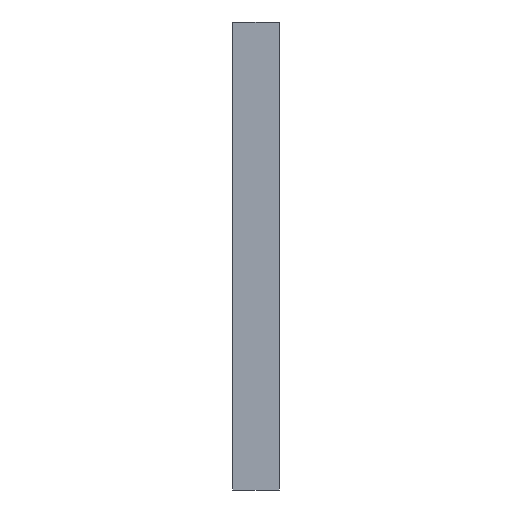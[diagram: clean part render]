
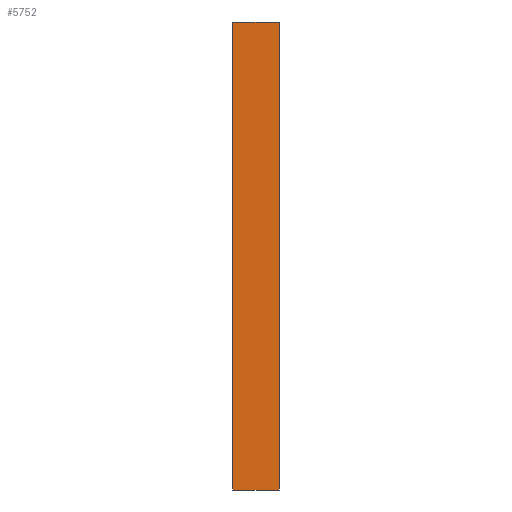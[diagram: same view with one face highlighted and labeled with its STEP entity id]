
A CAD part, left-side view. The second image highlights one B-rep face of the part: STEP entity #5752.
In plain terms, the highlighted planar face has unit normal (-1, 0, 0).
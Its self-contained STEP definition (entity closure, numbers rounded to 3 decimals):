
#262=FACE_OUTER_BOUND('',#547,.T.);
#547=EDGE_LOOP('',(#4687,#4688,#4689,#4690));
#1133=LINE('',#8549,#1949);
#1290=LINE('',#8862,#2106);
#1291=LINE('',#8863,#2107);
#1292=LINE('',#8864,#2108);
#1949=VECTOR('',#6982,10.);
#2106=VECTOR('',#7249,10.);
#2107=VECTOR('',#7250,10.);
#2108=VECTOR('',#7251,10.);
#2599=VERTEX_POINT('',#8546);
#2600=VERTEX_POINT('',#8548);
#2700=VERTEX_POINT('',#8860);
#2701=VERTEX_POINT('',#8861);
#3309=EDGE_CURVE('',#2599,#2600,#1133,.T.);
#3466=EDGE_CURVE('',#2700,#2701,#1290,.T.);
#3467=EDGE_CURVE('',#2701,#2600,#1291,.T.);
#3468=EDGE_CURVE('',#2700,#2599,#1292,.T.);
#4687=ORIENTED_EDGE('',*,*,#3466,.T.);
#4688=ORIENTED_EDGE('',*,*,#3467,.T.);
#4689=ORIENTED_EDGE('',*,*,#3309,.F.);
#4690=ORIENTED_EDGE('',*,*,#3468,.F.);
#5467=PLANE('',#6041);
#5752=ADVANCED_FACE('',(#262),#5467,.F.);
#6041=AXIS2_PLACEMENT_3D('',#8859,#7247,#7248);
#6982=DIRECTION('',(0.,0.,1.));
#7247=DIRECTION('center_axis',(1.,0.,0.));
#7248=DIRECTION('ref_axis',(0.,0.,1.));
#7249=DIRECTION('',(0.,0.,1.));
#7250=DIRECTION('',(0.,1.,0.));
#7251=DIRECTION('',(0.,1.,0.));
#8546=CARTESIAN_POINT('',(-5.,0.,0.));
#8548=CARTESIAN_POINT('',(-5.,0.,60.));
#8549=CARTESIAN_POINT('',(-5.,0.,45.));
#8859=CARTESIAN_POINT('Origin',(-5.,-4.5,30.));
#8860=CARTESIAN_POINT('',(-5.,-6.,0.));
#8861=CARTESIAN_POINT('',(-5.,-6.,60.));
#8862=CARTESIAN_POINT('',(-5.,-6.,45.));
#8863=CARTESIAN_POINT('',(-5.,-3.75,60.));
#8864=CARTESIAN_POINT('',(-5.,-0.75,0.));
